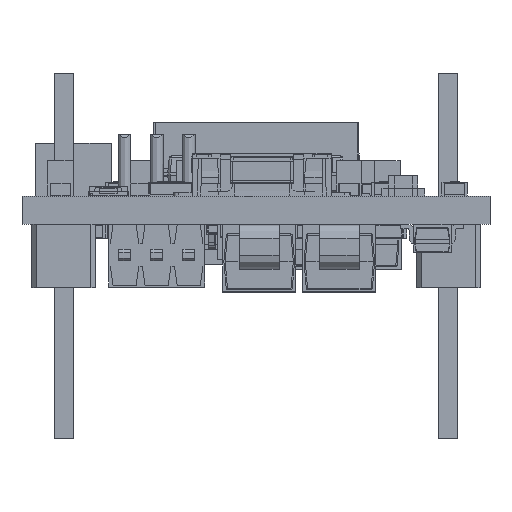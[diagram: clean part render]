
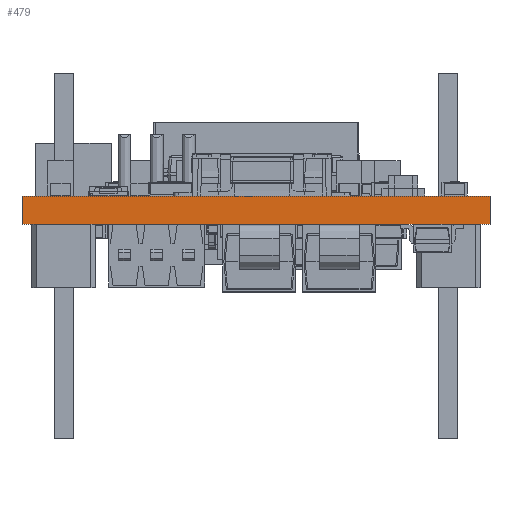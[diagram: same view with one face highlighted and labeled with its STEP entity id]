
A CAD part, front view. The second image highlights one B-rep face of the part: STEP entity #479.
In plain terms, the highlighted planar face has unit normal (0, -1, 0).
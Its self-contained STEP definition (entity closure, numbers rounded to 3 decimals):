
#381 = EDGE_CURVE('',#382,#384,#386,.T.);
#382 = VERTEX_POINT('',#383);
#383 = CARTESIAN_POINT('',(0.,0.,0.));
#384 = VERTEX_POINT('',#385);
#385 = CARTESIAN_POINT('',(0.,0.,1.123));
#386 = LINE('',#387,#388);
#387 = CARTESIAN_POINT('',(0.,0.,0.));
#388 = VECTOR('',#389,1.);
#389 = DIRECTION('',(0.,0.,1.));
#454 = VERTEX_POINT('',#455);
#455 = CARTESIAN_POINT('',(18.542,0.,1.123));
#461 = EDGE_CURVE('',#462,#454,#464,.T.);
#462 = VERTEX_POINT('',#463);
#463 = CARTESIAN_POINT('',(18.542,0.,0.));
#464 = LINE('',#465,#466);
#465 = CARTESIAN_POINT('',(18.542,0.,0.));
#466 = VECTOR('',#467,1.);
#467 = DIRECTION('',(0.,0.,1.));
#479 = ADVANCED_FACE('',(#480),#496,.T.);
#480 = FACE_BOUND('',#481,.T.);
#481 = EDGE_LOOP('',(#482,#483,#489,#490));
#482 = ORIENTED_EDGE('',*,*,#461,.T.);
#483 = ORIENTED_EDGE('',*,*,#484,.T.);
#484 = EDGE_CURVE('',#454,#384,#485,.T.);
#485 = LINE('',#486,#487);
#486 = CARTESIAN_POINT('',(18.542,0.,1.123));
#487 = VECTOR('',#488,1.);
#488 = DIRECTION('',(-1.,0.,0.));
#489 = ORIENTED_EDGE('',*,*,#381,.F.);
#490 = ORIENTED_EDGE('',*,*,#491,.F.);
#491 = EDGE_CURVE('',#462,#382,#492,.T.);
#492 = LINE('',#493,#494);
#493 = CARTESIAN_POINT('',(18.542,0.,0.));
#494 = VECTOR('',#495,1.);
#495 = DIRECTION('',(-1.,0.,0.));
#496 = PLANE('',#497);
#497 = AXIS2_PLACEMENT_3D('',#498,#499,#500);
#498 = CARTESIAN_POINT('',(18.542,0.,0.));
#499 = DIRECTION('',(0.,-1.,0.));
#500 = DIRECTION('',(-1.,0.,0.));
